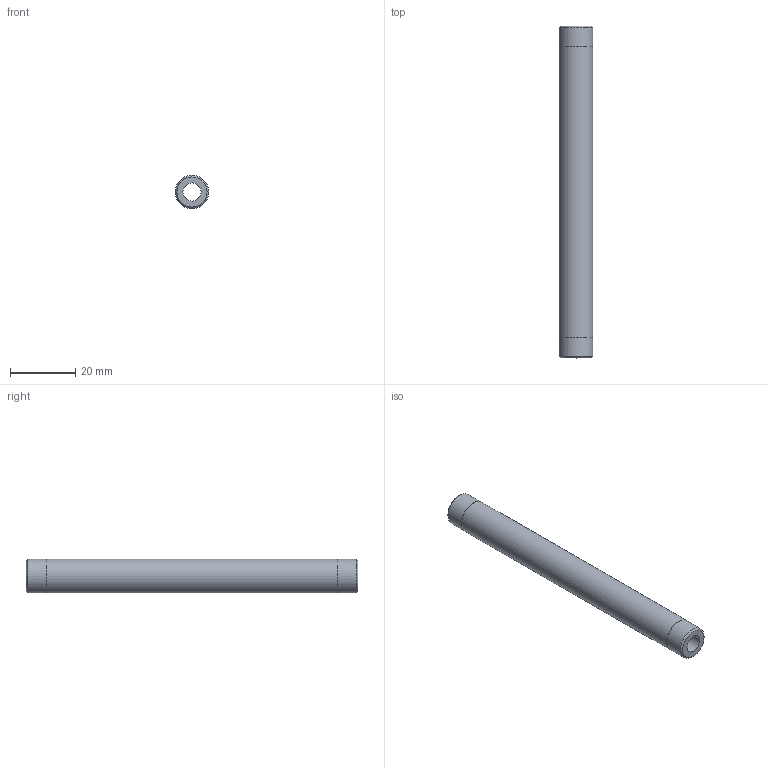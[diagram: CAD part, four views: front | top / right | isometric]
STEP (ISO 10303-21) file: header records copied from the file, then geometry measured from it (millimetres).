
FILE_DESCRIPTION(/* description */ (''),/* implementation_level */ '2;1');
FILE_NAME(/* name */ 'C:/Users/drich/Desktop/cad/Cascades/Jet Cool/Components/Outer Tubes/Threaded Type/SSPN18- v1.step',/* time_stamp */ '2020-01-10T15:18:05-06:00',/* author */ (''),/* organization */ (''),/* preprocessor_version */ 'ST-DEVELOPER v18',/* originating_system */ 'Autodesk Translation Framework v8.12.0.6',/* authorisation */ '');
FILE_SCHEMA (('AUTOMOTIVE_DESIGN { 1 0 10303 214 3 1 1 }'));
Length unit declared in the file: inch
Products named in the file (1): SSPN18-
Bounding box: 10.31 x 101.6 x 10.31 mm (x, y, z)
Volume: 6020.9 mm3; surface area: 5156 mm2
Topology: 1 solids, 1 shells, 10 faces, 24 edges, 18 vertices
Faces by surface type: cylinder 4, plane 4, cone 2
Full cylindrical faces by diameter (mm): 5.537 x1, 10.262 x2, 10.312 x1
Entity records: 360 total; most frequent: DIRECTION 64, CARTESIAN_POINT 53, ORIENTED_EDGE 48, AXIS2_PLACEMENT_3D 29, EDGE_CURVE 24, CIRCLE 18, VERTEX_POINT 18, EDGE_LOOP 14
